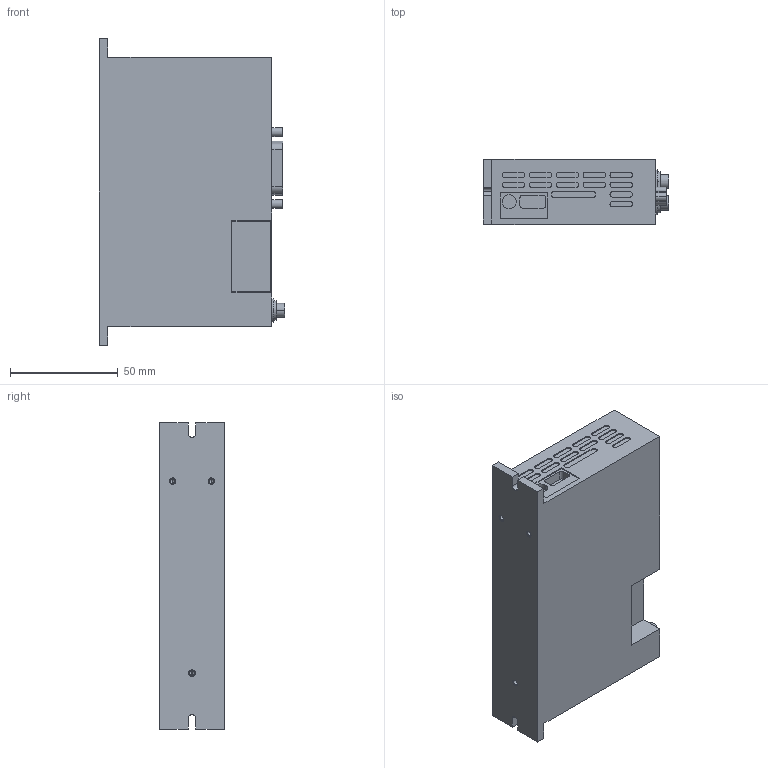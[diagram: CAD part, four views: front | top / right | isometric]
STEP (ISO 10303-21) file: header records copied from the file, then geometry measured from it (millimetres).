
FILE_DESCRIPTION(('starvars output'),'2;1');
FILE_NAME('RBD242A-V.stp','15:38:51 2015/05/11',( 'Thomas Industrial Network Germany GmbH'),( 'Thomas Industrial Network Germany GmbH'),'unknown preprocess','ACIS' ,'unknown authorization');
FILE_SCHEMA(('AUTOMOTIVE_DESIGN_CC2 {UNKNOWN IMPLEMENTATION LEVEL}'));
Length unit declared in the file: millimetre
Products named in the file (1): PRODUCT_ID_436
Bounding box: 86 x 30 x 142 mm (x, y, z)
Volume: 295285.4 mm3; surface area: 36707.1 mm2
Topology: 1 solids, 1 shells, 256 faces, 618 edges, 405 vertices
Faces by surface type: cylinder 126, plane 118, cone 12
Entity records: 8729 total; most frequent: ORIENTED_EDGE 1224, CARTESIAN_POINT 1091, DIRECTION 1024, EDGE_CURVE 612, VERTEX_POINT 405, VECTOR 348, LINE 348, AXIS2_PLACEMENT_3D 338
